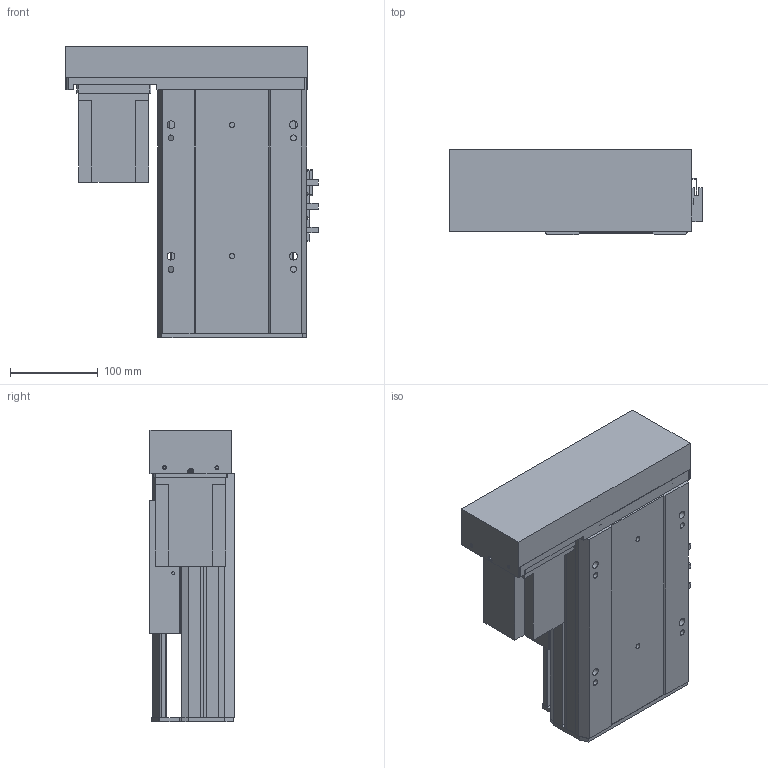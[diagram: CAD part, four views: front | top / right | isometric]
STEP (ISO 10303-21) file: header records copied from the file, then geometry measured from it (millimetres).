
FILE_DESCRIPTION (( 'STEP AP203' ), '1' );
FILE_NAME ('Y170-D10-S50-BL-P750W.STEP', '2020-01-17T12:48:21', ( '微软用户' ), ( '微软中国' ), 'SwSTEP 2.0', 'SolidWorks 2017', '' );
FILE_SCHEMA (( 'CONFIG_CONTROL_DESIGN' ));
Length unit declared in the file: millimetre
Products named in the file (12): Y170-BL-P750W楊擘啣; 侂狟750W; EGH20賑輸_蕼偞; Y雄赽釱-耜蚾; Y-BL.BR-俋欶; Y170耜裔--準---; Y170-陔遴奻裔-BR; YD-Y100-135-新外置传感挡片(通用）; Y--BL蟀諉啣-陔遴-; Y100-135俋离換覜ん; Y170-D10-S50-BL-P750W; 170--掛极-BR
Assembly tree (14 placements, depth 2):
  Y170-D10-S50-BL-P750W
    Y170耜裔--準---
    YD-Y100-135-新外置传感挡片(通用）
    Y100-135俋离換覜ん  x3
    170--掛极-BR
    Y170-BL-P750W楊擘啣
    侂狟750W
    EGH20賑輸_蕼偞  x2
    Y雄赽釱-耜蚾
    Y-BL.BR-俋欶
    Y170-陔遴奻裔-BR
    Y--BL蟀諉啣-陔遴-
Bounding box: 289 x 97 x 333.5 mm (x, y, z)
Volume: 2550625.4 mm3; surface area: 781823.4 mm2
Topology: 14 solids, 14 shells, 873 faces, 2402 edges, 1584 vertices
Faces by surface type: plane 443, cylinder 414, cone 16
Entity records: 26898 total; most frequent: CARTESIAN_POINT 4550, DIRECTION 4508, ORIENTED_EDGE 4300, EDGE_CURVE 2150, AXIS2_PLACEMENT_3D 1586, VERTEX_POINT 1428, VECTOR 1336, LINE 1336
